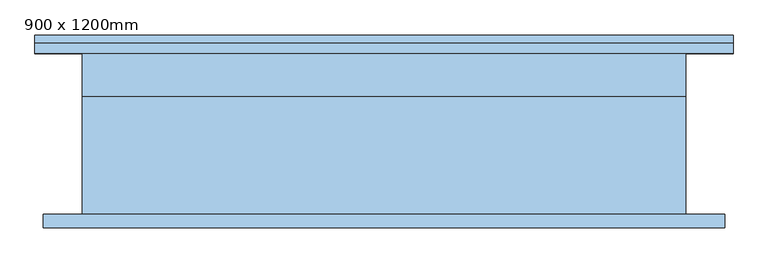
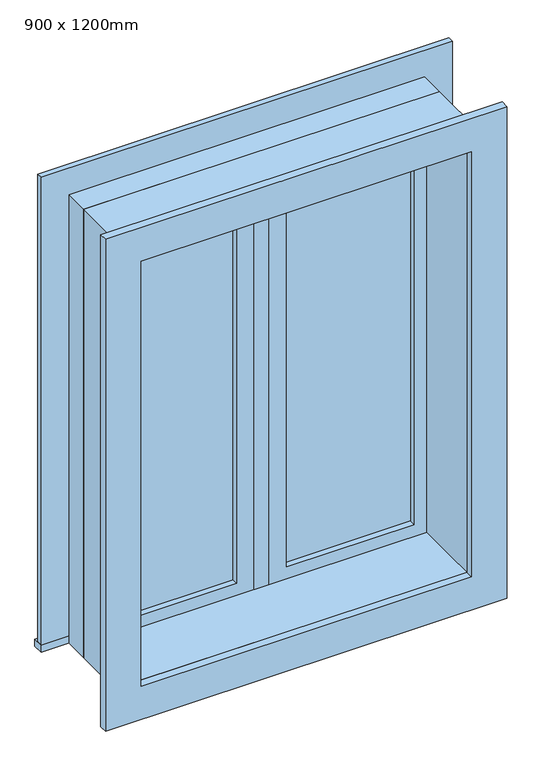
"""IFC4 building model written with IfcOpenShell, lengths in millimetres: window geometry, 双扇平开 - 带贴面 : 900 x 1200mm."""

import ifcopenshell
import ifcopenshell.guid

model = None  # the IFC model being written
_history = None  # IfcOwnerHistory: only IFC2X3 demands one
_inside = {}  # id of a spatial element -> (the spatial element, [elements in it])
_under = {}  # id of a project, library or spatial element -> (it, [spatial elements below it])
_declared = {}  # id of a project -> (the project, [libraries it declares])
_typed = {}  # id of a type object -> (the type object, [elements of that type])
_made_of = {}  # id of a material, layer set ... -> (it, [elements and type objects made of it])


def new_model(schema):
    """Start an empty IFC model of exactly this schema.

    Asked for "IFC4X3", IfcOpenShell would pick the latest addendum, in which some entities
    have other attributes; the version numbers below select the first issue.
    IFC2X3 requires an IfcOwnerHistory on every rooted entity: one is made here for all.
    """
    global model, _history
    if schema == "IFC4X3":
        model = ifcopenshell.file(schema_version=(4, 3, 0, 0))
    else:
        model = ifcopenshell.file(schema=schema)
    _inside.clear()
    _under.clear()
    _declared.clear()
    _typed.clear()
    _made_of.clear()
    _history = None
    if model.schema == "IFC2X3":
        org = make("IfcOrganization", Name="unknown")
        user = make(
            "IfcPersonAndOrganization",
            ThePerson=make("IfcPerson", FamilyName="unknown"),
            TheOrganization=org,
        )
        app = make(
            "IfcApplication",
            ApplicationDeveloper=org,
            Version="unknown",
            ApplicationFullName="unknown",
            ApplicationIdentifier="unknown",
        )
        _history = make(
            "IfcOwnerHistory",
            OwningUser=user,
            OwningApplication=app,
            ChangeAction="ADDED",
            CreationDate=0,
        )
    return model


def make(cls, **values):
    """One entity of the class cls with the attributes given. An attribute that is None is left unset."""
    return model.create_entity(
        cls, **{name: value for name, value in values.items() if value is not None}
    )


def rooted(cls, **values):
    """An entity with a GlobalId (a new one), such as an element, a storey or a relation."""
    return make(cls, GlobalId=ifcopenshell.guid.new(), OwnerHistory=_history, **values)


def si_unit(unit_type, name, prefix=None):
    """IfcSIUnit, for example si_unit("LENGTHUNIT", "METRE", prefix="MILLI")."""
    return make("IfcSIUnit", UnitType=unit_type, Prefix=prefix, Name=name)


def assignment(units):
    """IfcUnitAssignment: the units of a project."""
    return None if units is None else make("IfcUnitAssignment", Units=units)


def point(xyz):
    """IfcCartesianPoint."""
    return None if xyz is None else make("IfcCartesianPoint", Coordinates=xyz)


def direction(xyz):
    """IfcDirection."""
    return None if xyz is None else make("IfcDirection", DirectionRatios=xyz)


def frame(location, z_axis=None, x_axis=None):
    """IfcAxis2Placement3D, a coordinate frame: its origin and axes. An axis left out is left unset."""
    return make(
        "IfcAxis2Placement3D",
        Location=point(location),
        Axis=direction(z_axis),
        RefDirection=direction(x_axis),
    )


def origin():
    """The frame at (0, 0, 0) with its axes left unset."""
    return frame((0.0, 0.0, 0.0))


def place(relative_to, where):
    """IfcLocalPlacement: puts the frame where relative to a parent placement (None: the world)."""
    return make(
        "IfcLocalPlacement", PlacementRelTo=relative_to, RelativePlacement=where
    )


def context(
    kind, dimensions, precision=None, world=None, true_north=None, identifier=None
):
    """IfcGeometricRepresentationContext, for example the 3D "Model" context."""
    return make(
        "IfcGeometricRepresentationContext",
        ContextIdentifier=identifier,
        ContextType=kind,
        CoordinateSpaceDimension=dimensions,
        Precision=precision,
        WorldCoordinateSystem=world,
        TrueNorth=true_north,
    )


def project(units=None, contexts=None):
    """IfcProject with its units and contexts."""
    return rooted(
        "IfcProject",
        Name="project",
        RepresentationContexts=contexts,
        UnitsInContext=assignment(units),
    )


def spatial(cls, under=None, at=None, **own):
    """A site, building, storey or space (cls), placed at a placement, below another one or the project."""
    s = rooted(cls, ObjectPlacement=at, **own)
    if under is not None:
        _under.setdefault(under.id(), (under, []))[1].append(s)
    return s


def polyline(points):
    """IfcPolyline through the points."""
    return make("IfcPolyline", Points=[point(p) for p in points])


def outline(outer, holes=None, kind="AREA"):
    """IfcArbitraryClosedProfileDef: a profile drawn as a closed curve; with holes, ...WithVoids."""
    if holes is None:
        return make("IfcArbitraryClosedProfileDef", ProfileType=kind, OuterCurve=outer)
    return make(
        "IfcArbitraryProfileDefWithVoids",
        ProfileType=kind,
        OuterCurve=outer,
        InnerCurves=holes,
    )


def extrude(swept, where, along, depth):
    """IfcExtrudedAreaSolid: the profile swept, set in the frame where, extruded along a direction by depth."""
    return make(
        "IfcExtrudedAreaSolid",
        SweptArea=swept,
        Position=where,
        ExtrudedDirection=direction(along),
        Depth=depth,
    )


def shape(context_of_items, identifier, shape_type, items):
    """IfcShapeRepresentation: the items that make up one representation, for example the "Body"."""
    return make(
        "IfcShapeRepresentation",
        ContextOfItems=context_of_items,
        RepresentationIdentifier=identifier,
        RepresentationType=shape_type,
        Items=items,
    )


def source(mapping_origin, context_of_items, identifier, shape_type, items):
    """IfcRepresentationMap: a shape defined once, which mapped items show again and again."""
    return make(
        "IfcRepresentationMap",
        MappingOrigin=mapping_origin,
        MappedRepresentation=shape(context_of_items, identifier, shape_type, items),
    )


def transform(
    local_origin,
    x_axis=None,
    y_axis=None,
    z_axis=None,
    scale=None,
    scale2=None,
    scale3=None,
    uniform=True,
):
    """IfcCartesianTransformationOperator3D, or its non-uniform kind. x_axis, y_axis, z_axis: its Axis1, 2, 3."""
    if uniform:
        return make(
            "IfcCartesianTransformationOperator3D",
            Axis1=direction(x_axis),
            Axis2=direction(y_axis),
            LocalOrigin=point(local_origin),
            Scale=scale,
            Axis3=direction(z_axis),
        )
    return make(
        "IfcCartesianTransformationOperator3DnonUniform",
        Axis1=direction(x_axis),
        Axis2=direction(y_axis),
        LocalOrigin=point(local_origin),
        Scale=scale,
        Axis3=direction(z_axis),
        Scale2=scale2,
        Scale3=scale3,
    )


def mapped(mapping_source, mapping_target):
    """IfcMappedItem: shows the shape of a source again, moved by a transform."""
    return make(
        "IfcMappedItem", MappingSource=mapping_source, MappingTarget=mapping_target
    )


def made_of(thing, what):
    """Note that an element or type object is made of a material, layer set ...; save() writes the relation."""
    if what is not None:
        _made_of.setdefault(what.id(), (what, []))[1].append(thing)
    return thing


def element(
    cls,
    number,
    at=None,
    inside=None,
    cuts=None,
    type_object=None,
    material=None,
    context=None,
    identifier="Body",
    shape_type=None,
    held_by="IfcProductDefinitionShape",
    body=None,
    shapes=None,
    **own,
):
    """One element of the class cls, such as IfcWall. Its Tag is "e" and its number.

    at: its placement. inside: the storey or other place that contains it. cuts: it is an
    opening in that element (IfcRelVoidsElement). A single representation is given by context,
    identifier, shape_type and body (its items); several are given by shapes. held_by: the class
    of the entity that holds the representations. save() writes the other relations.
    """
    e = rooted(cls, Tag="e%d" % number, ObjectPlacement=at, **own)
    if body is not None:
        shapes = [shape(context, identifier, shape_type, body)]
    if shapes is not None:
        e.Representation = make(held_by, Representations=shapes)
    if inside is not None:
        _inside.setdefault(inside.id(), (inside, []))[1].append(e)
    if cuts is not None:
        rooted(
            "IfcRelVoidsElement", RelatingBuildingElement=cuts, RelatedOpeningElement=e
        )
    if type_object is not None:
        _typed.setdefault(type_object.id(), (type_object, []))[1].append(e)
    return made_of(e, material)


def aggregate(whole, parts):
    """IfcRelAggregates: a whole, such as a stair, and the parts it consists of."""
    return rooted("IfcRelAggregates", RelatingObject=whole, RelatedObjects=parts)


def save(model, path):
    """Write the relations noted so far, then the file.

    IfcRelAggregates (storeys below a building ...), IfcRelContainedInSpatialStructure (elements
    in a storey), IfcRelDefinesByType, IfcRelAssociatesMaterial and IfcRelDeclares: one each for
    every whole, place, type object, material and project.
    """
    for whole, parts in _under.values():
        aggregate(whole, parts)
    for where, things in _inside.values():
        rooted(
            "IfcRelContainedInSpatialStructure",
            RelatedElements=things,
            RelatingStructure=where,
        )
    for kind, things in _typed.values():
        rooted("IfcRelDefinesByType", RelatedObjects=things, RelatingType=kind)
    for what, things in _made_of.values():
        rooted("IfcRelAssociatesMaterial", RelatedObjects=things, RelatingMaterial=what)
    for by, libraries in _declared.values():
        rooted("IfcRelDeclares", RelatingContext=by, RelatedDefinitions=libraries)
    model.write(path)


def window_900_x_1200mm_d059c567(model_context):
    return source(origin(), model_context, "Body", "SweptSolid", [
        extrude(outline(polyline([(63.5, 84.125), (386.5, 84.125), (386.5, 71.425), (63.5, 71.425), (63.5, 84.125)])), frame((0.0, 0.0, 964.5), z_axis=(0.0, 0.0, 1.0), x_axis=(1.0, 0.0, 0.0)), (0.0, 0.0, 1.0), 1073.0),
        extrude(outline(polyline([(2081.95, 19.05), (920.05, 19.05), (920.05, 430.95), (2081.95, 430.95), (2081.95, 19.05)]), holes=[polyline([(2037.5, 63.5), (2037.5, 386.5), (964.5, 386.5), (964.5, 63.5), (2037.5, 63.5)])]), frame((0.0, 55.55, 0.0), z_axis=(0.0, 1.0, 0.0), x_axis=(0.0, 0.0, 1.0)), (0.0, 0.0, 1.0), 44.45),
        extrude(outline(polyline([(19.05, 55.55), (-19.05, 55.55), (-19.05, 119.05), (19.05, 119.05), (19.05, 55.55)])), frame((0.0, 0.0, 920.05), z_axis=(0.0, 0.0, 1.0), x_axis=(1.0, 0.0, 0.0)), (0.0, 0.0, 1.0), 1161.9),
        extrude(outline(polyline([(-63.5, 71.425), (-386.5, 71.425), (-386.5, 84.125), (-63.5, 84.125), (-63.5, 71.425)])), frame((0.0, 0.0, 964.5), z_axis=(0.0, 0.0, 1.0), x_axis=(1.0, 0.0, 0.0)), (0.0, 0.0, 1.0), 1073.0),
        extrude(outline(polyline([(2081.95, -430.95), (920.05, -430.95), (920.05, -19.05), (2081.95, -19.05), (2081.95, -430.95)]), holes=[polyline([(2037.5, -386.5), (2037.5, -63.5), (964.5, -63.5), (964.5, -386.5), (2037.5, -386.5)])]), frame((0.0, 55.55, 0.0), z_axis=(0.0, 1.0, 0.0), x_axis=(0.0, 0.0, 1.0)), (0.0, 0.0, 1.0), 44.45),
        extrude(outline(polyline([(2101.0, -450.0), (901.0, -450.0), (901.0, 450.0), (2101.0, 450.0), (2101.0, -450.0)]), holes=[polyline([(2069.25, -418.25), (2069.25, 418.25), (932.75, 418.25), (932.75, -418.25), (2069.25, -418.25)])]), frame((0.0, -120.0, 0.0), z_axis=(0.0, 1.0, 0.0), x_axis=(0.0, 0.0, 1.0)), (0.0, 0.0, 1.0), 175.55),
        extrude(outline(polyline([(2101.0, 450.0), (2101.0, -450.0), (901.0, -450.0), (901.0, 450.0), (2101.0, 450.0)]), holes=[polyline([(2081.95, 430.95), (920.05, 430.95), (920.05, -430.95), (2081.95, -430.95), (2081.95, 430.95)])]), frame((0.0, 55.55, 0.0), z_axis=(0.0, 1.0, 0.0), x_axis=(0.0, 0.0, 1.0)), (0.0, 0.0, 1.0), 64.45),
        extrude(outline(polyline([(-520.95, 147.7), (520.95, 147.7), (520.95, 120.0), (-520.95, 120.0), (-520.95, 147.7)])), frame((0.0, 0.0, 901.0), z_axis=(0.0, 0.0, 1.0), x_axis=(1.0, 0.0, 0.0)), (0.0, 0.0, 1.0), 19.05),
        extrude(outline(polyline([(2081.95, -430.95), (2081.95, 430.95), (920.05, 430.95), (920.05, 520.95), (2171.95, 520.95), (2171.95, -520.95), (920.05, -520.95), (920.05, -430.95), (2081.95, -430.95)])), frame((0.0, 120.0, 0.0), z_axis=(0.0, 1.0, 0.0), x_axis=(0.0, 0.0, 1.0)), (0.0, 0.0, 1.0), 15.0),
        extrude(outline(polyline([(2159.25, 508.25), (2159.25, -508.25), (842.75, -508.25), (842.75, 508.25), (2159.25, 508.25)]), holes=[polyline([(2069.25, 418.25), (932.75, 418.25), (932.75, -418.25), (2069.25, -418.25), (2069.25, 418.25)])]), frame((0.0, -140.0, 0.0), z_axis=(0.0, 1.0, 0.0), x_axis=(0.0, 0.0, 1.0)), (0.0, 0.0, 1.0), 20.0),
    ])


if __name__ == "__main__":
    model = new_model("IFC4")
    model_context = context("Model", 3, world=origin())
    ifc_project = project(units=[si_unit("LENGTHUNIT", "METRE", prefix="MILLI")], contexts=[model_context])
    site = spatial("IfcSite", under=ifc_project)
    building = spatial("IfcBuilding", under=site)
    placement = place(None, origin())
    window_900_x_1200mm_shape = window_900_x_1200mm_d059c567(model_context)
    element("IfcWindow", 1, ObjectType="双扇平开 - 带贴面 : 900 x 1200mm", at=placement, inside=building, context=model_context, shape_type="MappedRepresentation", body=[
        mapped(window_900_x_1200mm_shape, transform((0.0, 0.0, 0.0), x_axis=(1.0, 0.0, 0.0), y_axis=(0.0, 1.0, 0.0), z_axis=(0.0, 0.0, 1.0))),
    ])
    save(model, "model.ifc")
